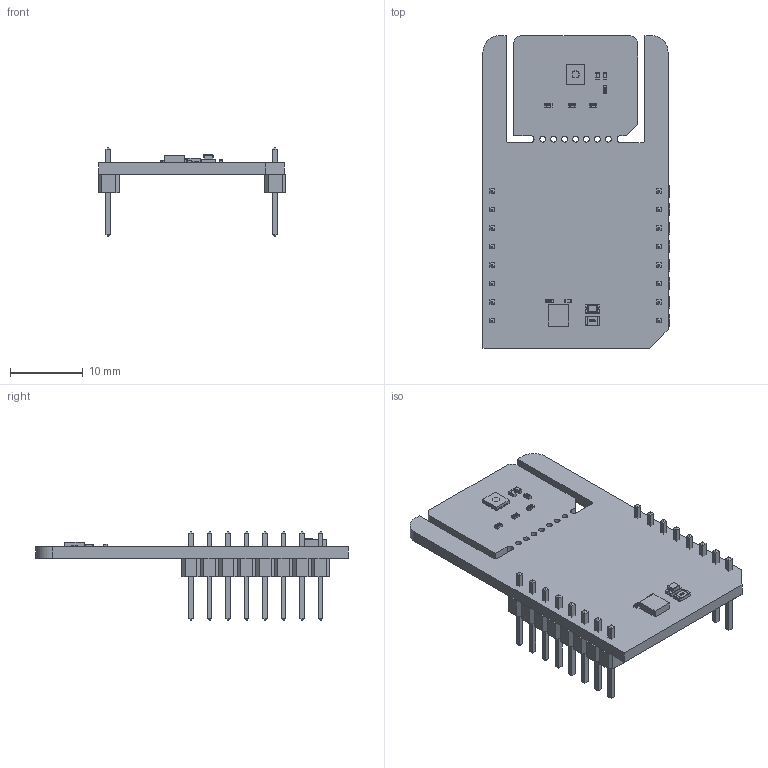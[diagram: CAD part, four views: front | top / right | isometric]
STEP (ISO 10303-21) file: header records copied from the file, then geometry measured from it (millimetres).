
FILE_DESCRIPTION(('Open CASCADE Model'),'2;1');
FILE_NAME('Open CASCADE Shape Model','2026-01-14T14:37:06',('Author'),( 'Open CASCADE'),'Open CASCADE STEP processor 6.8','Open CASCADE 6.8' ,'Unknown');
FILE_SCHEMA(('AUTOMOTIVE_DESIGN { 1 0 10303 214 1 1 1 1 }'));
Length unit declared in the file: millimetre
Products named in the file (30): PCB; Board; U2; 80296MarCom-3D-VEML6031_VEML6046; Open CASCADE STEP translator 6.8 1.2.1.1; Open CASCADE STEP translator 6.8 1.2.1.2; R6; User_Library-R_0402; R5; R4; R3; C3; User_Library-SMD_CAPACITOR0402; C2; MBD1; Header_1x8; Free-Models; 1240637040; User_Library-PinHeaderX5-1_PinHeaderX5_Body_1; User_Library-PinHeaderX5-1_PinHeaderX5_Pins_1; U1; 1144530272; Extruded; C1; R2; LD1; led_0805_green; R1; User_Library-R_0805
Assembly tree (37 placements, depth 7):
  PCB
    Board
    U2
      80296MarCom-3D-VEML6031_VEML6046
        Open CASCADE STEP translator 6.8 1.2.1.1
        Open CASCADE STEP translator 6.8 1.2.1.2
    R6
      User_Library-R_0402
    R5
      User_Library-R_0402
    R4
      User_Library-R_0402
    R3
      User_Library-R_0402
    C3
      User_Library-SMD_CAPACITOR0402
    C2
      User_Library-SMD_CAPACITOR0402
    MBD1
      Header_1x8  x2
        PCB
          Free-Models
            1240637040  x2
              User_Library-PinHeaderX5-1_PinHeaderX5_Body_1
              User_Library-PinHeaderX5-1_PinHeaderX5_Pins_1
    U1
      1144530272
        Extruded
    C1
      User_Library-SMD_CAPACITOR0402
    R2
      User_Library-R_0402
    LD1
      led_0805_green
    R1
      User_Library-R_0805
Bounding box: 25.78 x 42.93 x 12.19 mm (x, y, z)
Volume: 2142.7 mm3; surface area: 3841.6 mm2
Topology: 39 solids, 39 shells, 1311 faces, 3455 edges, 2374 vertices
Faces by surface type: plane 1013, bspline 172, cylinder 94, sphere 28, torus 4
Full cylindrical faces by diameter (mm): 0.8 x7
Entity records: 25053 total; most frequent: CARTESIAN_POINT 7710, ORIENTED_EDGE 2734, DIRECTION 2409, EDGE_CURVE 1367, LINE 1095, VECTOR 1095, VERTEX_POINT 886, AXIS2_PLACEMENT_3D 657
